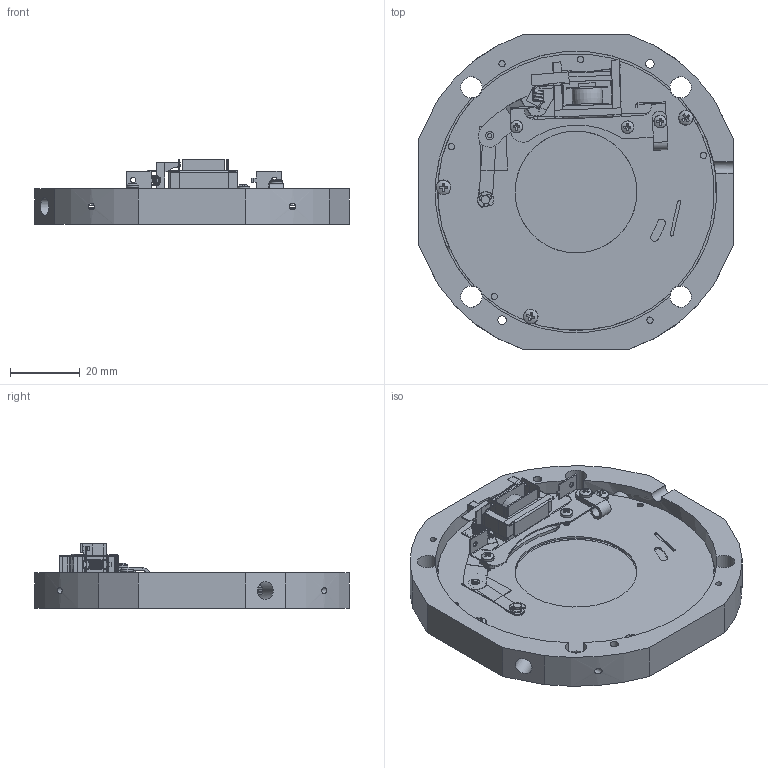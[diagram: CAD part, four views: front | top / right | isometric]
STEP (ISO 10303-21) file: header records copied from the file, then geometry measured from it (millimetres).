
FILE_DESCRIPTION (( 'STEP AP214' ), '1' );
FILE_NAME ('FS35HALF.STEP', '2019-10-02T13:59:14', ( '' ), ( '' ), 'SwSTEP 2.0', 'SolidWorks 2018', '' );
FILE_SCHEMA (( 'AUTOMOTIVE_DESIGN' ));
Length unit declared in the file: inch
Products named in the file (1): FS35HALF
Bounding box: 90.17 x 90.17 x 18.52 mm (x, y, z)
Surface area: 46405.7 mm2 (no closed solid volume)
Topology: 0 solids, 57 shells, 518 faces, 1805 edges, 1303 vertices
Faces by surface type: plane 329, cylinder 145, torus 16, cone 12, bspline 10, sphere 6
Full cylindrical faces by diameter (mm): 0.889 x1, 1.27 x1, 1.524 x1, 1.575 x2, 1.778 x12, 1.854 x2, 1.88 x1, 2.261 x4, 2.337 x1, 2.388 x2, 2.438 x2, 3.607 x3, 3.81 x1, 4.242 x3, 5 x1, 5.105 x1, 6.096 x4, 35 x3, 38.1 x1, 41.148 x1
Entity records: 28344 total; most frequent: CARTESIAN_POINT 6109, DIRECTION 3387, ORIENTED_EDGE 2558, EDGE_CURVE 1729, VERTEX_POINT 1296, AXIS2_PLACEMENT_3D 1189, VECTOR 1009, LINE 1009
